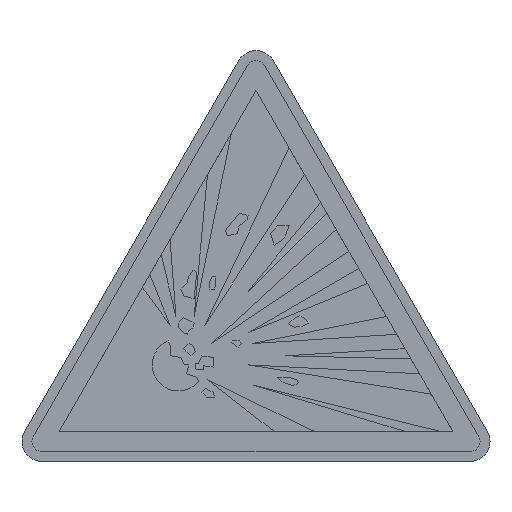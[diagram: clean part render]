
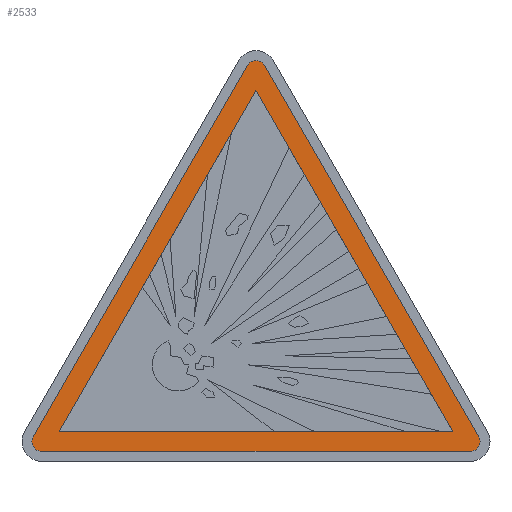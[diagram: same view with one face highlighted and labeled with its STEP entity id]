
A CAD part, top view. The second image highlights one B-rep face of the part: STEP entity #2533.
In plain terms, the highlighted planar face has unit normal (0, 0, 1).
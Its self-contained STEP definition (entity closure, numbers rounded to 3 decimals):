
#49 = CARTESIAN_POINT ( 'NONE',  ( 21.536, 2., 0.22 ) ) ;
#52 = DIRECTION ( 'NONE',  ( 0., 0., 1. ) ) ;
#144 = AXIS2_PLACEMENT_3D ( 'NONE', #5295, #52, #3104 ) ;
#258 = CARTESIAN_POINT ( 'NONE',  ( 0., 39.301, 0.22 ) ) ;
#283 = CARTESIAN_POINT ( 'NONE',  ( 22.402, 2.5, 0.22 ) ) ;
#452 = AXIS2_PLACEMENT_3D ( 'NONE', #258, #5338, #5472 ) ;
#687 = CARTESIAN_POINT ( 'NONE',  ( -21.536, 1., 0.22 ) ) ;
#693 = EDGE_CURVE ( 'NONE', #4634, #3345, #6386, .T. ) ;
#698 = LINE ( 'NONE', #2266, #2436 ) ;
#747 = DIRECTION ( 'NONE',  ( 1., 0., 0. ) ) ;
#840 = VERTEX_POINT ( 'NONE', #4433 ) ;
#1003 = DIRECTION ( 'NONE',  ( 1., 0., 0. ) ) ;
#1025 = CARTESIAN_POINT ( 'NONE',  ( -22.402, 2.5, 0.22 ) ) ;
#1341 = LINE ( 'NONE', #3543, #2492 ) ;
#1570 = ORIENTED_EDGE ( 'NONE', *, *, #4093, .T. ) ;
#1791 = EDGE_CURVE ( 'NONE', #2083, #4416, #5141, .T. ) ;
#1927 = DIRECTION ( 'NONE',  ( -0.5, -0.866, 0. ) ) ;
#1945 = DIRECTION ( 'NONE',  ( -0.5, -0.866, 0. ) ) ;
#1952 = VERTEX_POINT ( 'NONE', #3331 ) ;
#2076 = VERTEX_POINT ( 'NONE', #6721 ) ;
#2083 = VERTEX_POINT ( 'NONE', #1025 ) ;
#2144 = AXIS2_PLACEMENT_3D ( 'NONE', #6558, #3442, #2467 ) ;
#2218 = EDGE_CURVE ( 'NONE', #2076, #3130, #6277, .T. ) ;
#2266 = CARTESIAN_POINT ( 'NONE',  ( -19.804, 3., 0.22 ) ) ;
#2272 = CIRCLE ( 'NONE', #452, 1. ) ;
#2334 = CARTESIAN_POINT ( 'NONE',  ( -0.866, 39.801, 0.22 ) ) ;
#2344 = EDGE_CURVE ( 'NONE', #3130, #840, #698, .T. ) ;
#2368 = VECTOR ( 'NONE', #4232, 1000. ) ;
#2402 = PLANE ( 'NONE',  #2144 ) ;
#2436 = VECTOR ( 'NONE', #5366, 1000. ) ;
#2467 = DIRECTION ( 'NONE',  ( 1., 0., 0. ) ) ;
#2492 = VECTOR ( 'NONE', #4977, 1000. ) ;
#2533 = ADVANCED_FACE ( 'NONE', ( #2912, #6632 ), #2402, .T. ) ;
#2554 = ORIENTED_EDGE ( 'NONE', *, *, #3603, .T. ) ;
#2566 = EDGE_CURVE ( 'NONE', #3345, #3645, #5252, .T. ) ;
#2638 = ORIENTED_EDGE ( 'NONE', *, *, #2566, .T. ) ;
#2848 = VECTOR ( 'NONE', #1945, 1000. ) ;
#2912 = FACE_OUTER_BOUND ( 'NONE', #5690, .T. ) ;
#3019 = AXIS2_PLACEMENT_3D ( 'NONE', #4629, #4136, #1003 ) ;
#3021 = DIRECTION ( 'NONE',  ( 0., 0., 1. ) ) ;
#3027 = CARTESIAN_POINT ( 'NONE',  ( 0.866, 39.801, 0.22 ) ) ;
#3104 = DIRECTION ( 'NONE',  ( 1., 0., 0. ) ) ;
#3115 = ORIENTED_EDGE ( 'NONE', *, *, #1791, .T. ) ;
#3130 = VERTEX_POINT ( 'NONE', #3534 ) ;
#3214 = VECTOR ( 'NONE', #1927, 1000. ) ;
#3249 = EDGE_CURVE ( 'NONE', #1952, #2083, #4982, .T. ) ;
#3331 = CARTESIAN_POINT ( 'NONE',  ( -0.866, 39.801, 0.22 ) ) ;
#3335 = ORIENTED_EDGE ( 'NONE', *, *, #2344, .F. ) ;
#3345 = VERTEX_POINT ( 'NONE', #3696 ) ;
#3442 = DIRECTION ( 'NONE',  ( 0., 0., 1. ) ) ;
#3534 = CARTESIAN_POINT ( 'NONE',  ( -19.804, 3., 0.22 ) ) ;
#3543 = CARTESIAN_POINT ( 'NONE',  ( 22.402, 2.5, 0.22 ) ) ;
#3603 = EDGE_CURVE ( 'NONE', #3645, #4731, #1341, .T. ) ;
#3606 = VECTOR ( 'NONE', #747, 1000. ) ;
#3626 = DIRECTION ( 'NONE',  ( 1., 0., 0. ) ) ;
#3645 = VERTEX_POINT ( 'NONE', #283 ) ;
#3696 = CARTESIAN_POINT ( 'NONE',  ( 21.536, 1., 0.22 ) ) ;
#3718 = ORIENTED_EDGE ( 'NONE', *, *, #6251, .F. ) ;
#3750 = EDGE_CURVE ( 'NONE', #4731, #1952, #2272, .T. ) ;
#4031 = AXIS2_PLACEMENT_3D ( 'NONE', #49, #3021, #3626 ) ;
#4093 = EDGE_CURVE ( 'NONE', #4416, #4634, #6676, .T. ) ;
#4118 = EDGE_LOOP ( 'NONE', ( #3335, #6533, #3718 ) ) ;
#4136 = DIRECTION ( 'NONE',  ( 0., 0., 1. ) ) ;
#4232 = DIRECTION ( 'NONE',  ( -0.5, 0.866, 0. ) ) ;
#4416 = VERTEX_POINT ( 'NONE', #5617 ) ;
#4433 = CARTESIAN_POINT ( 'NONE',  ( 19.804, 3., 0.22 ) ) ;
#4587 = CARTESIAN_POINT ( 'NONE',  ( 0., 37.301, 0.22 ) ) ;
#4590 = ORIENTED_EDGE ( 'NONE', *, *, #3249, .T. ) ;
#4629 = CARTESIAN_POINT ( 'NONE',  ( -21.536, 2., 0.22 ) ) ;
#4634 = VERTEX_POINT ( 'NONE', #5773 ) ;
#4731 = VERTEX_POINT ( 'NONE', #3027 ) ;
#4977 = DIRECTION ( 'NONE',  ( -0.5, 0.866, 0. ) ) ;
#4982 = LINE ( 'NONE', #2334, #2848 ) ;
#5141 = CIRCLE ( 'NONE', #3019, 1. ) ;
#5252 = CIRCLE ( 'NONE', #4031, 1. ) ;
#5295 = CARTESIAN_POINT ( 'NONE',  ( -21.536, 2., 0.22 ) ) ;
#5312 = CARTESIAN_POINT ( 'NONE',  ( 19.804, 3., 0.22 ) ) ;
#5338 = DIRECTION ( 'NONE',  ( 0., 0., 1. ) ) ;
#5366 = DIRECTION ( 'NONE',  ( 1., 0., 0. ) ) ;
#5409 = LINE ( 'NONE', #5312, #2368 ) ;
#5472 = DIRECTION ( 'NONE',  ( 1., 0., 0. ) ) ;
#5512 = ORIENTED_EDGE ( 'NONE', *, *, #693, .T. ) ;
#5617 = CARTESIAN_POINT ( 'NONE',  ( -22.536, 2., 0.22 ) ) ;
#5690 = EDGE_LOOP ( 'NONE', ( #5970, #4590, #3115, #1570, #5512, #2638, #2554 ) ) ;
#5773 = CARTESIAN_POINT ( 'NONE',  ( -21.536, 1., 0.22 ) ) ;
#5970 = ORIENTED_EDGE ( 'NONE', *, *, #3750, .T. ) ;
#6251 = EDGE_CURVE ( 'NONE', #840, #2076, #5409, .T. ) ;
#6277 = LINE ( 'NONE', #4587, #3214 ) ;
#6386 = LINE ( 'NONE', #687, #3606 ) ;
#6533 = ORIENTED_EDGE ( 'NONE', *, *, #2218, .F. ) ;
#6558 = CARTESIAN_POINT ( 'NONE',  ( 0., 39.301, 0.22 ) ) ;
#6632 = FACE_BOUND ( 'NONE', #4118, .T. ) ;
#6676 = CIRCLE ( 'NONE', #144, 1. ) ;
#6721 = CARTESIAN_POINT ( 'NONE',  ( 0., 37.301, 0.22 ) ) ;
